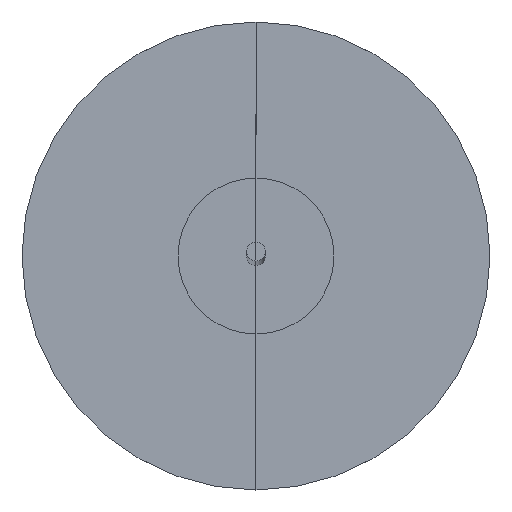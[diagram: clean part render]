
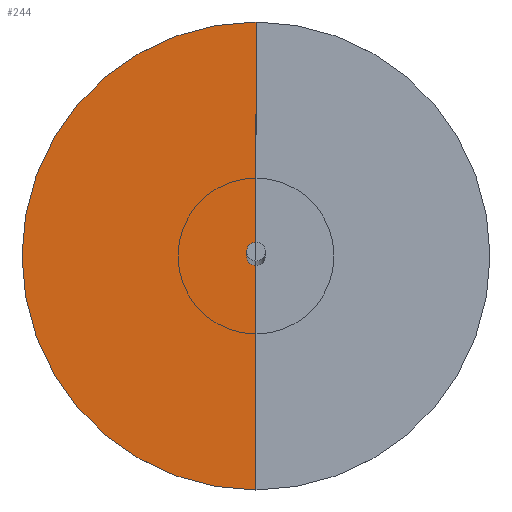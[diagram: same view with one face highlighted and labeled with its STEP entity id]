
A CAD part, top view. The second image highlights one B-rep face of the part: STEP entity #244.
In plain terms, the highlighted planar face has unit normal (0, 0, 1).
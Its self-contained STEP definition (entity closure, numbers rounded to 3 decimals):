
#38=FACE_OUTER_BOUND('',#56,.T.);
#56=EDGE_LOOP('',(#192,#193,#194,#195));
#72=LINE('',#422,#88);
#73=LINE('',#425,#89);
#88=VECTOR('',#344,304.8);
#89=VECTOR('',#347,304.8);
#104=CIRCLE('',#272,6.);
#106=CIRCLE('',#276,150.);
#120=VERTEX_POINT('',#413);
#121=VERTEX_POINT('',#415);
#122=VERTEX_POINT('',#421);
#123=VERTEX_POINT('',#423);
#143=EDGE_CURVE('',#121,#120,#104,.T.);
#146=EDGE_CURVE('',#122,#120,#72,.T.);
#147=EDGE_CURVE('',#123,#122,#106,.T.);
#148=EDGE_CURVE('',#121,#123,#73,.T.);
#192=ORIENTED_EDGE('',*,*,#143,.T.);
#193=ORIENTED_EDGE('',*,*,#146,.F.);
#194=ORIENTED_EDGE('',*,*,#147,.F.);
#195=ORIENTED_EDGE('',*,*,#148,.F.);
#230=PLANE('',#275);
#244=ADVANCED_FACE('',(#38),#230,.T.);
#272=AXIS2_PLACEMENT_3D('',#416,#335,#336);
#275=AXIS2_PLACEMENT_3D('',#420,#342,#343);
#276=AXIS2_PLACEMENT_3D('',#424,#345,#346);
#335=DIRECTION('center_axis',(0.,0.,-1.));
#336=DIRECTION('ref_axis',(0.,1.,0.));
#342=DIRECTION('center_axis',(0.,0.,1.));
#343=DIRECTION('ref_axis',(0.,1.,0.));
#344=DIRECTION('',(0.,1.,0.));
#345=DIRECTION('center_axis',(0.,0.,-1.));
#346=DIRECTION('ref_axis',(0.,1.,0.));
#347=DIRECTION('',(0.,1.,0.));
#413=CARTESIAN_POINT('',(0.,-6.,14.));
#415=CARTESIAN_POINT('',(0.,6.,14.));
#416=CARTESIAN_POINT('Origin',(0.,0.,14.));
#420=CARTESIAN_POINT('Origin',(0.,0.,14.));
#421=CARTESIAN_POINT('',(0.,-150.,14.));
#422=CARTESIAN_POINT('',(0.,-150.,14.));
#423=CARTESIAN_POINT('',(0.,150.,14.));
#424=CARTESIAN_POINT('Origin',(0.,0.,14.));
#425=CARTESIAN_POINT('',(0.,6.,14.));
